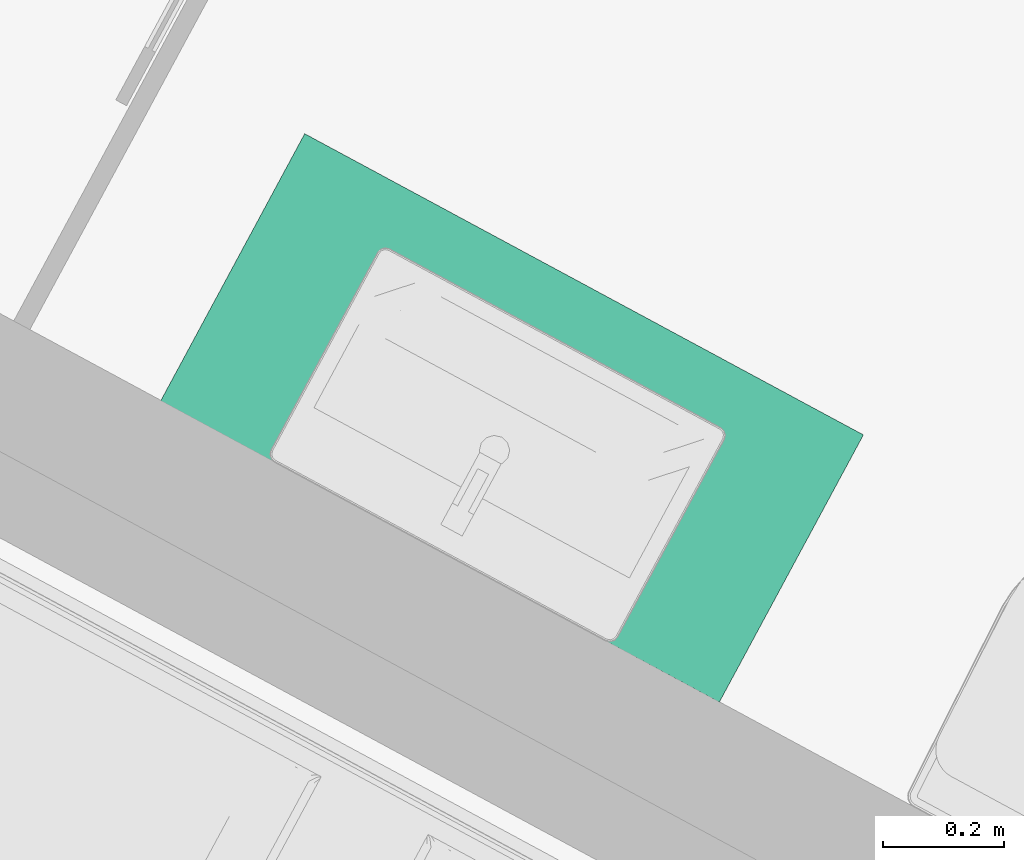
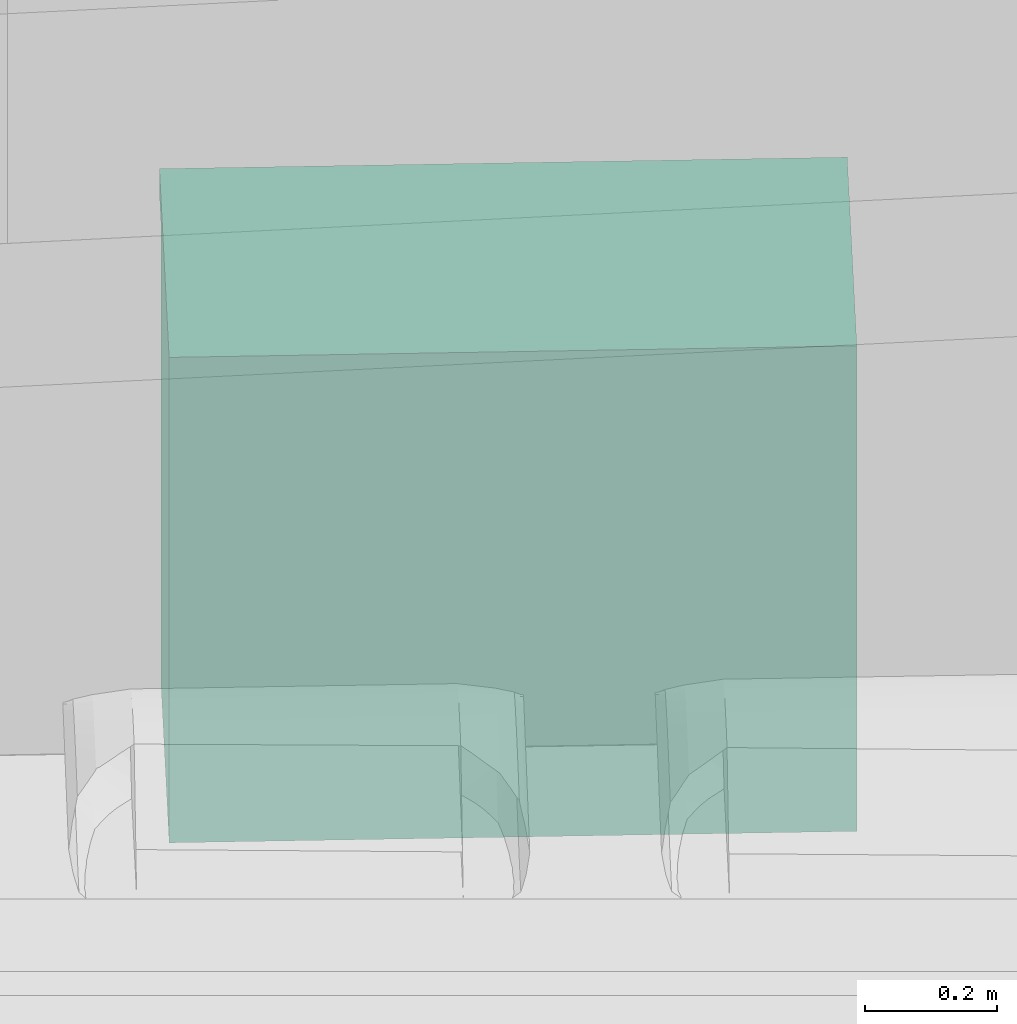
# One storey, part 17 of 41: 1 flow terminal.
"""IFC2X3 building model written with IfcOpenShell, lengths in metres."""

from ifc_helpers import new_model, entity, si_unit, converted_unit, derived_unit, money_unit, direction, frame, origin_with_axes, place, context, subcontext, project, spatial, faceted_brep, type_object, element, save


model = new_model("IFC2X3")

# Units and contexts
model_context = context("Model", 3, precision=1e-05, world=origin_with_axes(), true_north=direction((0.0, 1.0)))
body_context = subcontext(model_context, "Body", "Model", "MODEL_VIEW")
ifc_project = project(units=[si_unit("LENGTHUNIT", "METRE"), si_unit("AREAUNIT", "SQUARE_METRE"), si_unit("VOLUMEUNIT", "CUBIC_METRE"), converted_unit("PLANEANGLEUNIT", "DEGREE", entity("IfcPlaneAngleMeasure", 0.0174532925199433), si_unit("PLANEANGLEUNIT", "RADIAN"), dimensions=[0, 0, 0, 0, 0, 0, 0]), money_unit("EUR"), converted_unit("TIMEUNIT", "Year", entity("IfcTimeMeasure", 31556926.0), si_unit("TIMEUNIT", "SECOND"), dimensions=[0, 0, 1, 0, 0, 0, 0]), si_unit("MASSUNIT", "GRAM", prefix="KILO"), si_unit("THERMODYNAMICTEMPERATUREUNIT", "DEGREE_CELSIUS"), si_unit("LUMINOUSINTENSITYUNIT", "LUMEN"), si_unit("ENERGYUNIT", "JOULE", prefix="MEGA"), derived_unit("THERMALCONDUCTANCEUNIT", [(si_unit("POWERUNIT", "WATT"), 1), (si_unit("LENGTHUNIT", "METRE"), -1), (si_unit("THERMODYNAMICTEMPERATUREUNIT", "KELVIN"), -1)]), derived_unit("SPECIFICHEATCAPACITYUNIT", [(si_unit("ENERGYUNIT", "JOULE"), 1), (si_unit("MASSUNIT", "GRAM", prefix="KILO"), -1), (si_unit("THERMODYNAMICTEMPERATUREUNIT", "KELVIN"), -1)]), derived_unit("MASSDENSITYUNIT", [(si_unit("MASSUNIT", "GRAM", prefix="KILO"), 1), (si_unit("VOLUMEUNIT", "CUBIC_METRE"), -1)])], contexts=[model_context])

# Site, building, storey
site_placement = place(None, frame((-3.949935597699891, 1.740105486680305, 0.0), z_axis=(0.0, 0.0, 1.0), x_axis=(0.8799804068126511, -0.475009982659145, 0.0)))
site = spatial("IfcSite", under=ifc_project, at=site_placement, Name="Gelände", CompositionType="ELEMENT")
building_placement = place(site_placement, origin_with_axes())
building = spatial("IfcBuilding", under=site, at=building_placement, Name="Gebäude", CompositionType="ELEMENT")
storey_placement = place(building_placement, frame((0.0, 0.0, 4.55), z_axis=(0.0, 0.0, 1.0), x_axis=(1.0, 0.0, 0.0)))
storey = spatial("IfcBuildingStorey", under=building, at=storey_placement, Name="Staffelgeschoss", CompositionType="ELEMENT", Elevation=4.55)

# Flow terminal
sanitary_terminal_type = type_object("IfcSanitaryTerminalType", Name="Unterschrank Mehrfach-Schublade 22", PredefinedType="NOTDEFINED")
flow_terminal_placement = place(storey_placement, frame((8.102480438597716, 5.992465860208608, 0.0), z_axis=(0.0, 0.0, 1.0), x_axis=(-0.999999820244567, -0.0005995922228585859, 0.0)))
element("IfcFlowTerminal", 1, at=flow_terminal_placement, inside=storey, type_object=sanitary_terminal_type, Name="Objekt-0079", context=body_context, shape_type="Brep", body=[
    faceted_brep([(0.001499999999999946, 0.07, 0.0915), (1.0435, 0.07, 0.0915), (1.0435, 0.05, 0.0915), (0.001499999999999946, 0.05, 0.0915), (0.001499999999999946, 0.07000000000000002, 0.2785), (1.0435, 0.07000000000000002, 0.2785), (1.0435, 0.05000000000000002, 0.2785), (0.001499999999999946, 0.05000000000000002, 0.2785)], [[[0, 1, 2, 3]], [[0, 4, 5, 1]], [[1, 5, 6, 2]], [[3, 2, 6, 7]], [[4, 0, 3, 7]], [[5, 4, 7, 6]]]),
    faceted_brep([(0.5179077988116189, 0.05, 0.2039134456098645), (0.5140147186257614, 0.05, 0.2065147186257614), (0.5114134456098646, 0.05, 0.2104077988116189), (0.5105, 0.05, 0.215), (0.5114134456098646, 0.05, 0.2195922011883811), (0.5140147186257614, 0.05, 0.2234852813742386), (0.5179077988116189, 0.05, 0.2260865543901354), (0.5225, 0.05, 0.227), (0.5270922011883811, 0.05, 0.2260865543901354), (0.5309852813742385, 0.05, 0.2234852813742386), (0.5335865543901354, 0.05, 0.2195922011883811), (0.5345, 0.05, 0.215), (0.5335865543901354, 0.05, 0.2104077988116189), (0.5309852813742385, 0.05, 0.2065147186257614), (0.5270922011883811, 0.05, 0.2039134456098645), (0.5225, 0.05, 0.203), (0.5179077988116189, 0.025, 0.2039134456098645), (0.5140147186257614, 0.025, 0.2065147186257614), (0.5114134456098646, 0.025, 0.2104077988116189), (0.5105, 0.025, 0.215), (0.5114134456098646, 0.025, 0.2195922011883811), (0.5140147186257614, 0.025, 0.2234852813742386), (0.5179077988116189, 0.025, 0.2260865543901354), (0.5225, 0.025, 0.227), (0.5270922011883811, 0.025, 0.2260865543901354), (0.5309852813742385, 0.025, 0.2234852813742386), (0.5335865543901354, 0.025, 0.2195922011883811), (0.5345, 0.025, 0.215), (0.5335865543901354, 0.025, 0.2104077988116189), (0.5309852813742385, 0.025, 0.2065147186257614), (0.5270922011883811, 0.025, 0.2039134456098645), (0.5225, 0.025, 0.203)], [[[0, 1, 2, 3, 4, 5, 6, 7, 8, 9, 10, 11, 12, 13, 14, 15]], [[1, 0, 16, 17]], [[2, 1, 17, 18]], [[3, 2, 18, 19]], [[4, 3, 19, 20]], [[5, 4, 20, 21]], [[6, 5, 21, 22]], [[7, 6, 22, 23]], [[8, 7, 23, 24]], [[9, 8, 24, 25]], [[10, 9, 25, 26]], [[11, 10, 26, 27]], [[12, 11, 27, 28]], [[13, 12, 28, 29]], [[14, 13, 29, 30]], [[15, 14, 30, 31]], [[0, 15, 31, 16]], [[16, 31, 30, 29, 28, 27, 26, 25, 24, 23, 22, 21, 20, 19, 18, 17]]]),
    faceted_brep([(0.001499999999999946, 0.07, 0.2815), (1.0435, 0.07, 0.2815), (1.0435, 0.05, 0.2815), (0.001499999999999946, 0.05, 0.2815), (0.001499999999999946, 0.07000000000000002, 0.4685), (1.0435, 0.07000000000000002, 0.4685), (1.0435, 0.05000000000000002, 0.4685), (0.001499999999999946, 0.05000000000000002, 0.4685)], [[[0, 1, 2, 3]], [[0, 4, 5, 1]], [[1, 5, 6, 2]], [[3, 2, 6, 7]], [[4, 0, 3, 7]], [[5, 4, 7, 6]]]),
    faceted_brep([(0.5179077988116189, 0.05, 0.3939134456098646), (0.5140147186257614, 0.05, 0.3965147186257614), (0.5114134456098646, 0.05, 0.4004077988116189), (0.5105, 0.05, 0.405), (0.5114134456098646, 0.05, 0.4095922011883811), (0.5140147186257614, 0.05, 0.4134852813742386), (0.5179077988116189, 0.05, 0.4160865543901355), (0.5225, 0.05, 0.417), (0.5270922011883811, 0.05, 0.4160865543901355), (0.5309852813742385, 0.05, 0.4134852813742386), (0.5335865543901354, 0.05, 0.4095922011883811), (0.5345, 0.05, 0.405), (0.5335865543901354, 0.05, 0.400407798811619), (0.5309852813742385, 0.05, 0.3965147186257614), (0.5270922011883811, 0.05, 0.3939134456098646), (0.5225, 0.05, 0.393), (0.5179077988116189, 0.025, 0.3939134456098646), (0.5140147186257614, 0.025, 0.3965147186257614), (0.5114134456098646, 0.025, 0.4004077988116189), (0.5105, 0.025, 0.405), (0.5114134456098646, 0.025, 0.4095922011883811), (0.5140147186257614, 0.025, 0.4134852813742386), (0.5179077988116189, 0.025, 0.4160865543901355), (0.5225, 0.025, 0.417), (0.5270922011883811, 0.025, 0.4160865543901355), (0.5309852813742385, 0.025, 0.4134852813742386), (0.5335865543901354, 0.025, 0.4095922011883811), (0.5345, 0.025, 0.405), (0.5335865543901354, 0.025, 0.400407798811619), (0.5309852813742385, 0.025, 0.3965147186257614), (0.5270922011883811, 0.025, 0.3939134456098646), (0.5225, 0.025, 0.393)], [[[0, 1, 2, 3, 4, 5, 6, 7, 8, 9, 10, 11, 12, 13, 14, 15]], [[1, 0, 16, 17]], [[2, 1, 17, 18]], [[3, 2, 18, 19]], [[4, 3, 19, 20]], [[5, 4, 20, 21]], [[6, 5, 21, 22]], [[7, 6, 22, 23]], [[8, 7, 23, 24]], [[9, 8, 24, 25]], [[10, 9, 25, 26]], [[11, 10, 26, 27]], [[12, 11, 27, 28]], [[13, 12, 28, 29]], [[14, 13, 29, 30]], [[15, 14, 30, 31]], [[0, 15, 31, 16]], [[16, 31, 30, 29, 28, 27, 26, 25, 24, 23, 22, 21, 20, 19, 18, 17]]]),
    faceted_brep([(0.02, 0.07, 0.28), (1.025, 0.07, 0.28), (1.025, 0.07, 0.3), (0.02, 0.07, 0.3), (0.02, 0.48, 0.28), (1.025, 0.48, 0.28), (1.025, 0.48, 0.3), (0.02, 0.48, 0.3)], [[[0, 1, 2, 3]], [[0, 4, 5, 1]], [[1, 5, 6, 2]], [[3, 2, 6, 7]], [[4, 0, 3, 7]], [[5, 4, 7, 6]]]),
    faceted_brep([(0.001499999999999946, 0.07, 0.4715), (1.0435, 0.07, 0.4715), (1.0435, 0.05, 0.4715), (0.001499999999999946, 0.05, 0.4715), (0.001499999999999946, 0.07000000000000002, 0.6585), (1.0435, 0.07000000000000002, 0.6585), (1.0435, 0.05000000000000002, 0.6585), (0.001499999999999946, 0.05000000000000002, 0.6585)], [[[0, 1, 2, 3]], [[0, 4, 5, 1]], [[1, 5, 6, 2]], [[3, 2, 6, 7]], [[4, 0, 3, 7]], [[5, 4, 7, 6]]]),
    faceted_brep([(0.5179077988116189, 0.05, 0.5839134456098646), (0.5140147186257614, 0.05, 0.5865147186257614), (0.5114134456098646, 0.05, 0.5904077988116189), (0.5105, 0.05, 0.595), (0.5114134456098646, 0.05, 0.5995922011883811), (0.5140147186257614, 0.05, 0.6034852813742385), (0.5179077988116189, 0.05, 0.6060865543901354), (0.5225, 0.05, 0.607), (0.5270922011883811, 0.05, 0.6060865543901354), (0.5309852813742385, 0.05, 0.6034852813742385), (0.5335865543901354, 0.05, 0.5995922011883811), (0.5345, 0.05, 0.595), (0.5335865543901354, 0.05, 0.5904077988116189), (0.5309852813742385, 0.05, 0.5865147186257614), (0.5270922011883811, 0.05, 0.5839134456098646), (0.5225, 0.05, 0.583), (0.5179077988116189, 0.025, 0.5839134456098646), (0.5140147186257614, 0.025, 0.5865147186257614), (0.5114134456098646, 0.025, 0.5904077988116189), (0.5105, 0.025, 0.595), (0.5114134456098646, 0.025, 0.5995922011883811), (0.5140147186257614, 0.025, 0.6034852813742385), (0.5179077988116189, 0.025, 0.6060865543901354), (0.5225, 0.025, 0.607), (0.5270922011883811, 0.025, 0.6060865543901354), (0.5309852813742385, 0.025, 0.6034852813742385), (0.5335865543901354, 0.025, 0.5995922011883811), (0.5345, 0.025, 0.595), (0.5335865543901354, 0.025, 0.5904077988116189), (0.5309852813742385, 0.025, 0.5865147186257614), (0.5270922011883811, 0.025, 0.5839134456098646), (0.5225, 0.025, 0.583)], [[[0, 1, 2, 3, 4, 5, 6, 7, 8, 9, 10, 11, 12, 13, 14, 15]], [[1, 0, 16, 17]], [[2, 1, 17, 18]], [[3, 2, 18, 19]], [[4, 3, 19, 20]], [[5, 4, 20, 21]], [[6, 5, 21, 22]], [[7, 6, 22, 23]], [[8, 7, 23, 24]], [[9, 8, 24, 25]], [[10, 9, 25, 26]], [[11, 10, 26, 27]], [[12, 11, 27, 28]], [[13, 12, 28, 29]], [[14, 13, 29, 30]], [[15, 14, 30, 31]], [[0, 15, 31, 16]], [[16, 31, 30, 29, 28, 27, 26, 25, 24, 23, 22, 21, 20, 19, 18, 17]]]),
    faceted_brep([(0.02, 0.07, 0.47), (1.025, 0.07, 0.47), (1.025, 0.07, 0.49), (0.02, 0.07, 0.49), (0.02, 0.48, 0.47), (1.025, 0.48, 0.47), (1.025, 0.48, 0.49), (0.02, 0.48, 0.49)], [[[0, 1, 2, 3]], [[0, 4, 5, 1]], [[1, 5, 6, 2]], [[3, 2, 6, 7]], [[4, 0, 3, 7]], [[5, 4, 7, 6]]]),
    faceted_brep([(0.001499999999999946, 0.07, 0.6615), (1.0435, 0.07, 0.6615), (1.0435, 0.05, 0.6615), (0.001499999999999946, 0.05, 0.6615), (0.001499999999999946, 0.07000000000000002, 0.8485), (1.0435, 0.07000000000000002, 0.8485), (1.0435, 0.05000000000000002, 0.8485), (0.001499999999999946, 0.05000000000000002, 0.8485)], [[[0, 1, 2, 3]], [[0, 4, 5, 1]], [[1, 5, 6, 2]], [[3, 2, 6, 7]], [[4, 0, 3, 7]], [[5, 4, 7, 6]]]),
    faceted_brep([(0.5179077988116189, 0.05, 0.7739134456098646), (0.5140147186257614, 0.05, 0.7765147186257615), (0.5114134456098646, 0.05, 0.7804077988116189), (0.5105, 0.05, 0.785), (0.5114134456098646, 0.05, 0.7895922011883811), (0.5140147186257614, 0.05, 0.7934852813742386), (0.5179077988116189, 0.05, 0.7960865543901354), (0.5225, 0.05, 0.797), (0.5270922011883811, 0.05, 0.7960865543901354), (0.5309852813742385, 0.05, 0.7934852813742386), (0.5335865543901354, 0.05, 0.7895922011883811), (0.5345, 0.05, 0.785), (0.5335865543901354, 0.05, 0.7804077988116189), (0.5309852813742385, 0.05, 0.7765147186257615), (0.5270922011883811, 0.05, 0.7739134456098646), (0.5225, 0.05, 0.773), (0.5179077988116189, 0.025, 0.7739134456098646), (0.5140147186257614, 0.025, 0.7765147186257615), (0.5114134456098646, 0.025, 0.7804077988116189), (0.5105, 0.025, 0.785), (0.5114134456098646, 0.025, 0.7895922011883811), (0.5140147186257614, 0.025, 0.7934852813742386), (0.5179077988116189, 0.025, 0.7960865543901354), (0.5225, 0.025, 0.797), (0.5270922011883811, 0.025, 0.7960865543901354), (0.5309852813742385, 0.025, 0.7934852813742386), (0.5335865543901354, 0.025, 0.7895922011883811), (0.5345, 0.025, 0.785), (0.5335865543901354, 0.025, 0.7804077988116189), (0.5309852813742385, 0.025, 0.7765147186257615), (0.5270922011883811, 0.025, 0.7739134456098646), (0.5225, 0.025, 0.773)], [[[0, 1, 2, 3, 4, 5, 6, 7, 8, 9, 10, 11, 12, 13, 14, 15]], [[1, 0, 16, 17]], [[2, 1, 17, 18]], [[3, 2, 18, 19]], [[4, 3, 19, 20]], [[5, 4, 20, 21]], [[6, 5, 21, 22]], [[7, 6, 22, 23]], [[8, 7, 23, 24]], [[9, 8, 24, 25]], [[10, 9, 25, 26]], [[11, 10, 26, 27]], [[12, 11, 27, 28]], [[13, 12, 28, 29]], [[14, 13, 29, 30]], [[15, 14, 30, 31]], [[0, 15, 31, 16]], [[16, 31, 30, 29, 28, 27, 26, 25, 24, 23, 22, 21, 20, 19, 18, 17]]]),
    faceted_brep([(0.02, 0.07, 0.66), (1.025, 0.07, 0.66), (1.025, 0.07, 0.68), (0.02, 0.07, 0.68), (0.02, 0.48, 0.66), (1.025, 0.48, 0.66), (1.025, 0.48, 0.68), (0.02, 0.48, 0.68)], [[[0, 1, 2, 3]], [[0, 4, 5, 1]], [[1, 5, 6, 2]], [[3, 2, 6, 7]], [[4, 0, 3, 7]], [[5, 4, 7, 6]]]),
    faceted_brep([(0.0, 0.07, 0.0), (1.045, 0.07, 0.0), (1.045, 0.07, 0.09), (0.0, 0.07, 0.09), (0.0, 0.5, 0.0), (1.045, 0.5, 0.0), (1.045, 0.5, 0.09), (0.0, 0.5, 0.09)], [[[0, 1, 2, 3]], [[0, 4, 5, 1]], [[1, 5, 6, 2]], [[3, 2, 6, 7]], [[4, 0, 3, 7]], [[5, 4, 7, 6]]]),
    faceted_brep([(0.0, 0.07, 0.83), (0.02, 0.07, 0.83), (0.02, 0.07, 0.85), (0.0, 0.07, 0.85), (0.0, 0.5, 0.83), (0.02, 0.5, 0.83), (1.025, 0.5, 0.83), (1.045, 0.5, 0.83), (1.045, 0.07, 0.83), (1.025, 0.07, 0.83), (1.025, 0.07, 0.85), (1.045, 0.07, 0.85), (1.045, 0.5, 0.85), (1.025, 0.5, 0.85), (0.02, 0.5, 0.85), (0.0, 0.5, 0.85)], [[[0, 1, 2, 3]], [[0, 4, 5, 6, 7, 8, 9, 1]], [[1, 9, 10, 2]], [[3, 2, 10, 11, 12, 13, 14, 15]], [[4, 0, 3, 15]], [[5, 4, 15, 14]], [[6, 5, 14, 13]], [[7, 6, 13, 12]], [[8, 7, 12, 11]], [[9, 8, 11, 10]]]),
    faceted_brep([(0.0, 0.07, 0.09), (0.02, 0.07, 0.09), (0.02, 0.07, 0.11), (0.0, 0.07, 0.11), (0.0, 0.5, 0.09), (0.02, 0.5, 0.09), (1.025, 0.5, 0.09), (1.045, 0.5, 0.09), (1.045, 0.07, 0.09), (1.025, 0.07, 0.09), (1.025, 0.07, 0.11), (1.045, 0.07, 0.11), (1.045, 0.5, 0.11), (1.025, 0.5, 0.11), (0.02, 0.5, 0.11), (0.0, 0.5, 0.11)], [[[0, 1, 2, 3]], [[0, 4, 5, 6, 7, 8, 9, 1]], [[1, 9, 10, 2]], [[3, 2, 10, 11, 12, 13, 14, 15]], [[4, 0, 3, 15]], [[5, 4, 15, 14]], [[6, 5, 14, 13]], [[7, 6, 13, 12]], [[8, 7, 12, 11]], [[9, 8, 11, 10]]]),
    faceted_brep([(0.0, 0.07, 0.11), (0.02, 0.07, 0.11), (0.02, 0.07, 0.83), (0.0, 0.07, 0.83), (0.0, 0.5, 0.11), (1.045, 0.5, 0.11), (1.045, 0.07, 0.11), (1.025, 0.07, 0.11), (1.025, 0.48, 0.11), (0.02, 0.48, 0.11), (0.02, 0.48, 0.83), (1.025, 0.48, 0.83), (1.025, 0.07, 0.83), (1.045, 0.07, 0.83), (1.045, 0.5, 0.83), (0.0, 0.5, 0.83)], [[[0, 1, 2, 3]], [[0, 4, 5, 6, 7, 8, 9, 1]], [[1, 9, 10, 2]], [[3, 2, 10, 11, 12, 13, 14, 15]], [[4, 0, 3, 15]], [[5, 4, 15, 14]], [[6, 5, 14, 13]], [[7, 6, 13, 12]], [[8, 7, 12, 11]], [[9, 8, 11, 10]]]),
    faceted_brep([(0.0, 0.0, 0.85), (1.045, 0.0, 0.85), (1.045, 0.0, 0.9), (0.0, 0.0, 0.9), (0.0, 0.5, 0.85), (1.045, 0.5, 0.85), (1.045, 0.5, 0.9), (0.0, 0.5, 0.9)], [[[0, 1, 2, 3]], [[0, 4, 5, 1]], [[1, 5, 6, 2]], [[3, 2, 6, 7]], [[4, 0, 3, 7]], [[5, 4, 7, 6]]]),
])

save(model, "model.ifc")
